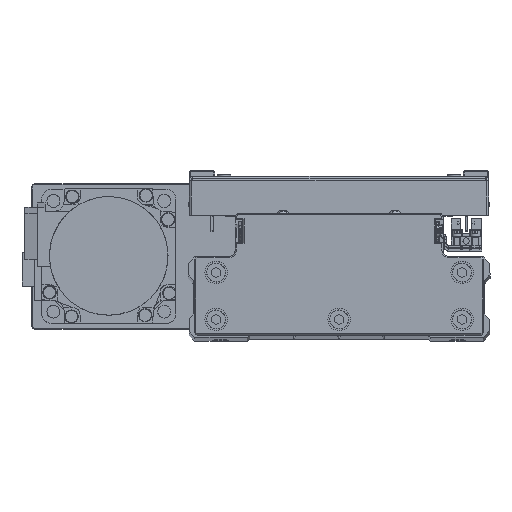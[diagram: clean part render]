
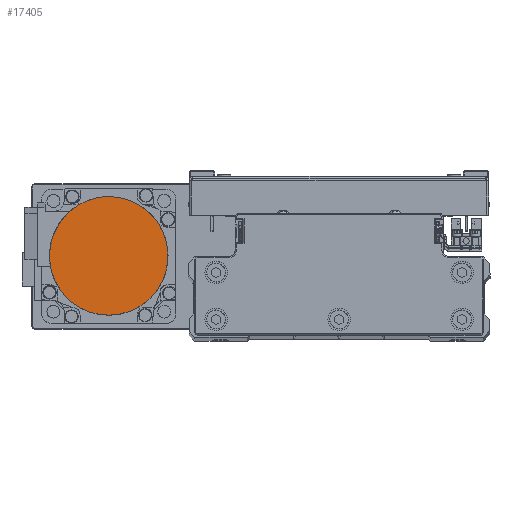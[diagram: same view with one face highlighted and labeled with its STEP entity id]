
A CAD part, top view. The second image highlights one B-rep face of the part: STEP entity #17405.
In plain terms, the highlighted planar face has unit normal (0, 0, 1) as drawn and (0, 0, -1) by its records, which use the part's own axes.
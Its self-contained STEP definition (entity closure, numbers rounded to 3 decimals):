
#468 = CARTESIAN_POINT ( 'NONE',  ( -16.165, -21.07, -109.7 ) ) ;
#512 = CARTESIAN_POINT ( 'NONE',  ( 26.329, 3.469, -109.7 ) ) ;
#687 = CARTESIAN_POINT ( 'NONE',  ( 16.165, -21.07, -109.7 ) ) ;
#731 = CARTESIAN_POINT ( 'NONE',  ( 3.469, 26.329, -109.7 ) ) ;
#963 = CARTESIAN_POINT ( 'NONE',  ( -23.819, 11.744, -109.7 ) ) ;
#1286 = EDGE_CURVE ( 'NONE', #8404, #14411, #36751, .T. ) ;
#3826 = CARTESIAN_POINT ( 'NONE',  ( -21.07, -16.165, -109.7 ) ) ;
#4058 = CARTESIAN_POINT ( 'NONE',  ( 8.539, -25.147, -109.7 ) ) ;
#4100 = CARTESIAN_POINT ( 'NONE',  ( 11.744, 23.819, -109.7 ) ) ;
#4276 = CARTESIAN_POINT ( 'NONE',  ( 26.5, 0., -109.7 ) ) ;
#4322 = CARTESIAN_POINT ( 'NONE',  ( -19.965, 17.512, -109.7 ) ) ;
#7202 = CARTESIAN_POINT ( 'NONE',  ( -25.147, -8.539, -109.7 ) ) ;
#7436 = CARTESIAN_POINT ( 'NONE',  ( 1.734, -26.5, -109.7 ) ) ;
#7484 = CARTESIAN_POINT ( 'NONE',  ( 17.512, 19.965, -109.7 ) ) ;
#7665 = CARTESIAN_POINT ( 'NONE',  ( 25.652, -6.871, -109.7 ) ) ;
#7704 = CARTESIAN_POINT ( 'NONE',  ( -13.28, 22.998, -109.7 ) ) ;
#8197 = ORIENTED_EDGE ( 'NONE', *, *, #1286, .F. ) ;
#8404 = VERTEX_POINT ( 'NONE', #14975 ) ;
#10572 = CARTESIAN_POINT ( 'NONE',  ( -26.5, -1.734, -109.7 ) ) ;
#10789 = CARTESIAN_POINT ( 'NONE',  ( -6.871, -25.652, -109.7 ) ) ;
#10839 = CARTESIAN_POINT ( 'NONE',  ( 22.998, 13.28, -109.7 ) ) ;
#11019 = CARTESIAN_POINT ( 'NONE',  ( 22.998, -13.28, -109.7 ) ) ;
#11071 = CARTESIAN_POINT ( 'NONE',  ( -6.871, 25.652, -109.7 ) ) ;
#11288 = CARTESIAN_POINT ( 'NONE',  ( -26.5, 1.734, -109.7 ) ) ;
#12025 = DIRECTION ( 'NONE',  ( 0., 0., 1. ) ) ;
#14111 = EDGE_CURVE ( 'NONE', #14411, #8404, #30053, .T. ) ;
#14168 = CARTESIAN_POINT ( 'NONE',  ( -13.28, -22.998, -109.7 ) ) ;
#14212 = CARTESIAN_POINT ( 'NONE',  ( 25.652, 6.871, -109.7 ) ) ;
#14394 = CARTESIAN_POINT ( 'NONE',  ( 17.512, -19.965, -109.7 ) ) ;
#14411 = VERTEX_POINT ( 'NONE', #19932 ) ;
#14433 = CARTESIAN_POINT ( 'NONE',  ( 1.734, 26.5, -109.7 ) ) ;
#14660 = CARTESIAN_POINT ( 'NONE',  ( -25.147, 8.539, -109.7 ) ) ;
#14975 = CARTESIAN_POINT ( 'NONE',  ( 26.5, 0., -109.7 ) ) ;
#15405 = FACE_OUTER_BOUND ( 'NONE', #37025, .T. ) ;
#17405 = ADVANCED_FACE ( 'NONE', ( #15405 ), #29062, .F. ) ;
#17520 = CARTESIAN_POINT ( 'NONE',  ( -19.965, -17.512, -109.7 ) ) ;
#17565 = CARTESIAN_POINT ( 'NONE',  ( 26.5, 0., -109.7 ) ) ;
#17745 = CARTESIAN_POINT ( 'NONE',  ( 11.744, -23.819, -109.7 ) ) ;
#17788 = CARTESIAN_POINT ( 'NONE',  ( 8.539, 25.147, -109.7 ) ) ;
#18007 = CARTESIAN_POINT ( 'NONE',  ( -21.07, 16.165, -109.7 ) ) ;
#19932 = CARTESIAN_POINT ( 'NONE',  ( -26.5, 0., -109.7 ) ) ;
#20877 = CARTESIAN_POINT ( 'NONE',  ( -23.819, -11.744, -109.7 ) ) ;
#20937 = ORIENTED_EDGE ( 'NONE', *, *, #14111, .F. ) ;
#21109 = CARTESIAN_POINT ( 'NONE',  ( 3.469, -26.329, -109.7 ) ) ;
#21157 = CARTESIAN_POINT ( 'NONE',  ( 16.165, 21.07, -109.7 ) ) ;
#21332 = CARTESIAN_POINT ( 'NONE',  ( 26.329, -3.469, -109.7 ) ) ;
#21370 = CARTESIAN_POINT ( 'NONE',  ( -16.165, 21.07, -109.7 ) ) ;
#22505 = AXIS2_PLACEMENT_3D ( 'NONE', #42717, #12025, #25697 ) ;
#24250 = CARTESIAN_POINT ( 'NONE',  ( -26.329, -3.469, -109.7 ) ) ;
#24466 = CARTESIAN_POINT ( 'NONE',  ( -3.469, -26.329, -109.7 ) ) ;
#24513 = CARTESIAN_POINT ( 'NONE',  ( 21.07, 16.165, -109.7 ) ) ;
#24700 = CARTESIAN_POINT ( 'NONE',  ( 23.819, -11.744, -109.7 ) ) ;
#24748 = CARTESIAN_POINT ( 'NONE',  ( -8.539, 25.147, -109.7 ) ) ;
#24954 = CARTESIAN_POINT ( 'NONE',  ( -26.5, 0., -109.7 ) ) ;
#25697 = DIRECTION ( 'NONE',  ( 1., 0., 0. ) ) ;
#27824 = CARTESIAN_POINT ( 'NONE',  ( -11.744, -23.819, -109.7 ) ) ;
#27870 = CARTESIAN_POINT ( 'NONE',  ( 25.147, 8.539, -109.7 ) ) ;
#28046 = CARTESIAN_POINT ( 'NONE',  ( 19.965, -17.512, -109.7 ) ) ;
#28097 = CARTESIAN_POINT ( 'NONE',  ( -1.734, 26.5, -109.7 ) ) ;
#28317 = CARTESIAN_POINT ( 'NONE',  ( -25.652, 6.871, -109.7 ) ) ;
#29062 = PLANE ( 'NONE',  #22505 ) ;
#30053 = B_SPLINE_CURVE_WITH_KNOTS ( 'NONE', 3,
 ( #41262, #10572, #24250, #37919, #7202, #20877, #34553, #3826, #17520, #31199, #468, #14168, #27824, #41479, #10789, #24466, #38148, #7436, #21109, #34790, #4058, #17745, #31411, #687, #14394, #28046, #41711, #11019, #24700, #38376, #7665, #21332, #35004, #4276 ),
 .UNSPECIFIED., .F., .F.,
 ( 4, 2, 2, 2, 2, 2, 2, 2, 2, 2, 2, 2, 2, 2, 2, 2, 4 ),
 ( 0., 0.063, 0.125, 0.188, 0.25, 0.312, 0.375, 0.437, 0.5, 0.562, 0.625, 0.687, 0.75, 0.813, 0.875, 0.938, 1. ),
 .UNSPECIFIED. ) ;
#31199 = CARTESIAN_POINT ( 'NONE',  ( -17.512, -19.965, -109.7 ) ) ;
#31237 = CARTESIAN_POINT ( 'NONE',  ( 26.5, 1.734, -109.7 ) ) ;
#31411 = CARTESIAN_POINT ( 'NONE',  ( 13.28, -22.998, -109.7 ) ) ;
#31459 = CARTESIAN_POINT ( 'NONE',  ( 6.871, 25.652, -109.7 ) ) ;
#31677 = CARTESIAN_POINT ( 'NONE',  ( -22.998, 13.28, -109.7 ) ) ;
#34553 = CARTESIAN_POINT ( 'NONE',  ( -22.998, -13.28, -109.7 ) ) ;
#34790 = CARTESIAN_POINT ( 'NONE',  ( 6.871, -25.652, -109.7 ) ) ;
#34829 = CARTESIAN_POINT ( 'NONE',  ( 13.28, 22.998, -109.7 ) ) ;
#35004 = CARTESIAN_POINT ( 'NONE',  ( 26.5, -1.734, -109.7 ) ) ;
#35047 = CARTESIAN_POINT ( 'NONE',  ( -17.512, 19.965, -109.7 ) ) ;
#36751 = B_SPLINE_CURVE_WITH_KNOTS ( 'NONE', 3,
 ( #17565, #31237, #512, #14212, #27870, #41522, #10839, #24513, #38196, #7484, #21157, #34829, #4100, #17788, #31459, #731, #14433, #28097, #41755, #11071, #24748, #38415, #7704, #21370, #35047, #4322, #18007, #31677, #963, #14660, #28317, #41978, #11288, #24954 ),
 .UNSPECIFIED., .F., .F.,
 ( 4, 2, 2, 2, 2, 2, 2, 2, 2, 2, 2, 2, 2, 2, 2, 2, 4 ),
 ( 0., 0.062, 0.125, 0.187, 0.25, 0.312, 0.375, 0.437, 0.5, 0.562, 0.625, 0.687, 0.75, 0.813, 0.875, 0.938, 1. ),
 .UNSPECIFIED. ) ;
#37025 = EDGE_LOOP ( 'NONE', ( #8197, #20937 ) ) ;
#37919 = CARTESIAN_POINT ( 'NONE',  ( -25.652, -6.871, -109.7 ) ) ;
#38148 = CARTESIAN_POINT ( 'NONE',  ( -1.734, -26.5, -109.7 ) ) ;
#38196 = CARTESIAN_POINT ( 'NONE',  ( 19.965, 17.512, -109.7 ) ) ;
#38376 = CARTESIAN_POINT ( 'NONE',  ( 25.147, -8.539, -109.7 ) ) ;
#38415 = CARTESIAN_POINT ( 'NONE',  ( -11.744, 23.819, -109.7 ) ) ;
#41262 = CARTESIAN_POINT ( 'NONE',  ( -26.5, 0., -109.7 ) ) ;
#41479 = CARTESIAN_POINT ( 'NONE',  ( -8.539, -25.147, -109.7 ) ) ;
#41522 = CARTESIAN_POINT ( 'NONE',  ( 23.819, 11.744, -109.7 ) ) ;
#41711 = CARTESIAN_POINT ( 'NONE',  ( 21.07, -16.165, -109.7 ) ) ;
#41755 = CARTESIAN_POINT ( 'NONE',  ( -3.469, 26.329, -109.7 ) ) ;
#41978 = CARTESIAN_POINT ( 'NONE',  ( -26.329, 3.469, -109.7 ) ) ;
#42717 = CARTESIAN_POINT ( 'NONE',  ( 0., 0., -109.7 ) ) ;
